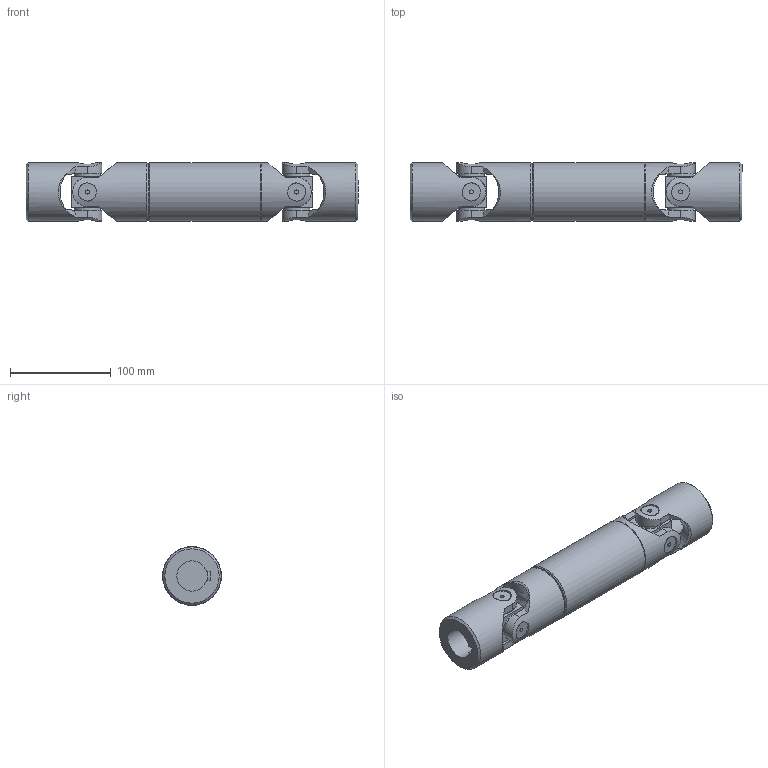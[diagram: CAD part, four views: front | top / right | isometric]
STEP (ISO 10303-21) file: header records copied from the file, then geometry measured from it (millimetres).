
FILE_DESCRIPTION(/* description */ (''),/* implementation_level */ '2;1');
FILE_NAME(/* name */ '\\SRV2016\Societa\Stefano\Disegni 3D\00Catalogo 3D\03Trasmissioni standard GA\6GA10\6GA10_SG0A3010.stp',/* time_stamp */ '2022-02-01T10:18:02+01:00',/* author */ ('acquisti'),/* organization */ (''),/* preprocessor_version */ 'ST-DEVELOPER v15.6',/* originating_system */ 'Autodesk Inventor 2015',/* authorisation */ '');
FILE_SCHEMA (('AUTOMOTIVE_DESIGN { 1 0 10303 214 3 1 1 }'));
Length unit declared in the file: millimetre
Products named in the file (5): 6GA1 LAI; 6GA1 LCI; 6G MOC; 6G SFE; 6GA10_SG0A3010
Assembly tree (6 placements, depth 2):
  6GA10_SG0A3010
    6GA1 LAI
    6GA1 LCI
    6G MOC  x2
    6G SFE  x2
Bounding box: 330 x 58.5 x 58.5 mm (x, y, z)
Volume: 638352.7 mm3; surface area: 131960.9 mm2
Topology: 6 solids, 6 shells, 220 faces, 561 edges, 377 vertices
Faces by surface type: plane 114, cylinder 77, cone 25, torus 4
Full cylindrical faces by diameter (mm): 4 x8, 18 x8, 26 x8, 30 x1, 32 x2, 49 x1, 58 x4, 58.5 x1
Entity records: 5899 total; most frequent: CARTESIAN_POINT 1695, DIRECTION 847, ORIENTED_EDGE 832, EDGE_CURVE 416, AXIS2_PLACEMENT_3D 331, VERTEX_POINT 300, EDGE_LOOP 228, LINE 185
